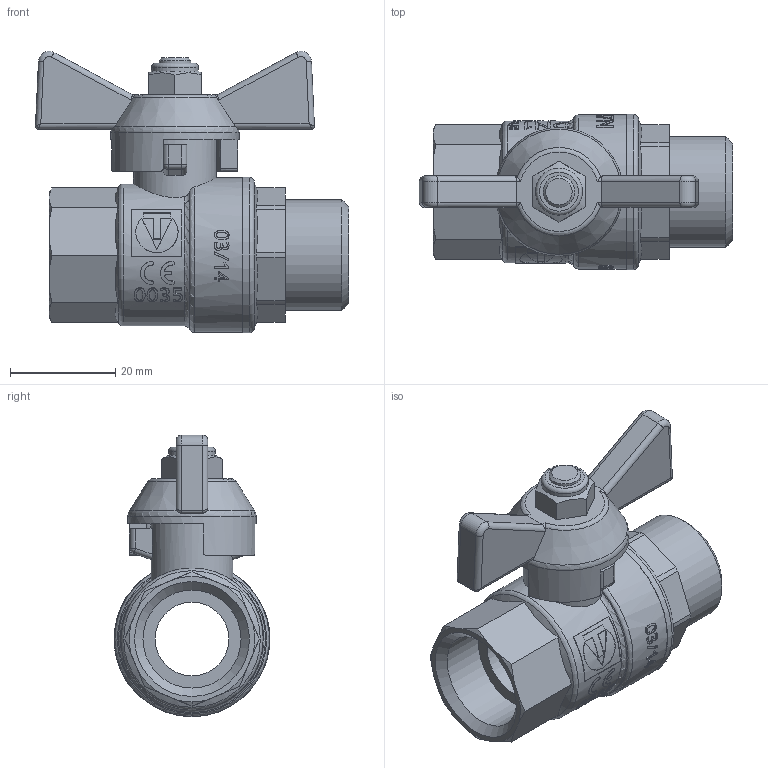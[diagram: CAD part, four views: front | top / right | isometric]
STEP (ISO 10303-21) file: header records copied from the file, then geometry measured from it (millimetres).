
FILE_DESCRIPTION(('TFLEX Exchange Step'),'2;1');
FILE_NAME('Ball valve DN15, 1_2 VT.218.N.04 Valtec.stp', '2023-09-12T15:27:18+03:00',('denis'),('Unknown organisation'),'TFLEX Exchange 2023.0','T-FLEX CAD','Unknown authorisation');
FILE_SCHEMA( ('AUTOMOTIVE_DESIGN { 1 0 10303 214 1 1 1 1 }') );
Length unit declared in the file: millimetre
Products named in the file (1): Nodes
Bounding box: 59.43 x 29.53 x 53.42 mm (x, y, z)
Volume: 27091.1 mm3; surface area: 11773.9 mm2
Topology: 3 solids, 3 shells, 532 faces, 1402 edges, 918 vertices
Faces by surface type: plane 209, bspline 190, cylinder 97, cone 19, torus 13, sphere 4
Full cylindrical faces by diameter (mm): 6 x1, 8.9 x1, 14 x1, 15.729 x1, 18.6 x1, 21 x1, 24.322 x1, 26.933 x1, 29.333 x1, 29.5 x1
Entity records: 23800 total; most frequent: CARTESIAN_POINT 12229, ORIENTED_EDGE 2792, DIRECTION 1715, EDGE_CURVE 1396, VERTEX_POINT 918, AXIS2_PLACEMENT_3D 636, B_SPLINE_CURVE_WITH_KNOTS 636, EDGE_LOOP 582
